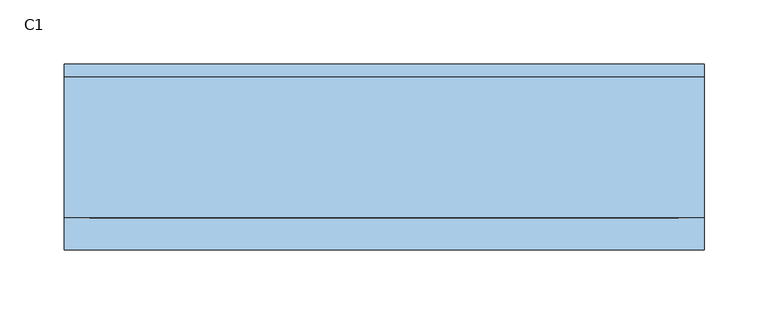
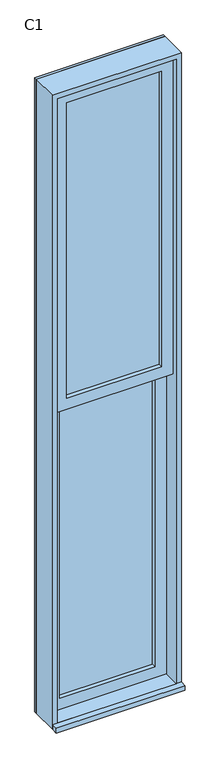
"""IFC4 building model written with IfcOpenShell, lengths in millimetres: window geometry, 上下拉窗1 : C1."""

import ifcopenshell
import ifcopenshell.guid

model = None  # the IFC model being written
_history = None  # IfcOwnerHistory: only IFC2X3 demands one
_inside = {}  # id of a spatial element -> (the spatial element, [elements in it])
_under = {}  # id of a project, library or spatial element -> (it, [spatial elements below it])
_declared = {}  # id of a project -> (the project, [libraries it declares])
_typed = {}  # id of a type object -> (the type object, [elements of that type])
_made_of = {}  # id of a material, layer set ... -> (it, [elements and type objects made of it])


def new_model(schema):
    """Start an empty IFC model of exactly this schema.

    Asked for "IFC4X3", IfcOpenShell would pick the latest addendum, in which some entities
    have other attributes; the version numbers below select the first issue.
    IFC2X3 requires an IfcOwnerHistory on every rooted entity: one is made here for all.
    """
    global model, _history
    if schema == "IFC4X3":
        model = ifcopenshell.file(schema_version=(4, 3, 0, 0))
    else:
        model = ifcopenshell.file(schema=schema)
    _inside.clear()
    _under.clear()
    _declared.clear()
    _typed.clear()
    _made_of.clear()
    _history = None
    if model.schema == "IFC2X3":
        org = make("IfcOrganization", Name="unknown")
        user = make(
            "IfcPersonAndOrganization",
            ThePerson=make("IfcPerson", FamilyName="unknown"),
            TheOrganization=org,
        )
        app = make(
            "IfcApplication",
            ApplicationDeveloper=org,
            Version="unknown",
            ApplicationFullName="unknown",
            ApplicationIdentifier="unknown",
        )
        _history = make(
            "IfcOwnerHistory",
            OwningUser=user,
            OwningApplication=app,
            ChangeAction="ADDED",
            CreationDate=0,
        )
    return model


def make(cls, **values):
    """One entity of the class cls with the attributes given. An attribute that is None is left unset."""
    return model.create_entity(
        cls, **{name: value for name, value in values.items() if value is not None}
    )


def rooted(cls, **values):
    """An entity with a GlobalId (a new one), such as an element, a storey or a relation."""
    return make(cls, GlobalId=ifcopenshell.guid.new(), OwnerHistory=_history, **values)


def si_unit(unit_type, name, prefix=None):
    """IfcSIUnit, for example si_unit("LENGTHUNIT", "METRE", prefix="MILLI")."""
    return make("IfcSIUnit", UnitType=unit_type, Prefix=prefix, Name=name)


def assignment(units):
    """IfcUnitAssignment: the units of a project."""
    return None if units is None else make("IfcUnitAssignment", Units=units)


def point(xyz):
    """IfcCartesianPoint."""
    return None if xyz is None else make("IfcCartesianPoint", Coordinates=xyz)


def direction(xyz):
    """IfcDirection."""
    return None if xyz is None else make("IfcDirection", DirectionRatios=xyz)


def frame(location, z_axis=None, x_axis=None):
    """IfcAxis2Placement3D, a coordinate frame: its origin and axes. An axis left out is left unset."""
    return make(
        "IfcAxis2Placement3D",
        Location=point(location),
        Axis=direction(z_axis),
        RefDirection=direction(x_axis),
    )


def origin():
    """The frame at (0, 0, 0) with its axes left unset."""
    return frame((0.0, 0.0, 0.0))


def place(relative_to, where):
    """IfcLocalPlacement: puts the frame where relative to a parent placement (None: the world)."""
    return make(
        "IfcLocalPlacement", PlacementRelTo=relative_to, RelativePlacement=where
    )


def context(
    kind, dimensions, precision=None, world=None, true_north=None, identifier=None
):
    """IfcGeometricRepresentationContext, for example the 3D "Model" context."""
    return make(
        "IfcGeometricRepresentationContext",
        ContextIdentifier=identifier,
        ContextType=kind,
        CoordinateSpaceDimension=dimensions,
        Precision=precision,
        WorldCoordinateSystem=world,
        TrueNorth=true_north,
    )


def project(units=None, contexts=None):
    """IfcProject with its units and contexts."""
    return rooted(
        "IfcProject",
        Name="project",
        RepresentationContexts=contexts,
        UnitsInContext=assignment(units),
    )


def spatial(cls, under=None, at=None, **own):
    """A site, building, storey or space (cls), placed at a placement, below another one or the project."""
    s = rooted(cls, ObjectPlacement=at, **own)
    if under is not None:
        _under.setdefault(under.id(), (under, []))[1].append(s)
    return s


def polyline(points):
    """IfcPolyline through the points."""
    return make("IfcPolyline", Points=[point(p) for p in points])


def outline(outer, holes=None, kind="AREA"):
    """IfcArbitraryClosedProfileDef: a profile drawn as a closed curve; with holes, ...WithVoids."""
    if holes is None:
        return make("IfcArbitraryClosedProfileDef", ProfileType=kind, OuterCurve=outer)
    return make(
        "IfcArbitraryProfileDefWithVoids",
        ProfileType=kind,
        OuterCurve=outer,
        InnerCurves=holes,
    )


def extrude(swept, where, along, depth):
    """IfcExtrudedAreaSolid: the profile swept, set in the frame where, extruded along a direction by depth."""
    return make(
        "IfcExtrudedAreaSolid",
        SweptArea=swept,
        Position=where,
        ExtrudedDirection=direction(along),
        Depth=depth,
    )


def shape(context_of_items, identifier, shape_type, items):
    """IfcShapeRepresentation: the items that make up one representation, for example the "Body"."""
    return make(
        "IfcShapeRepresentation",
        ContextOfItems=context_of_items,
        RepresentationIdentifier=identifier,
        RepresentationType=shape_type,
        Items=items,
    )


def source(mapping_origin, context_of_items, identifier, shape_type, items):
    """IfcRepresentationMap: a shape defined once, which mapped items show again and again."""
    return make(
        "IfcRepresentationMap",
        MappingOrigin=mapping_origin,
        MappedRepresentation=shape(context_of_items, identifier, shape_type, items),
    )


def transform(
    local_origin,
    x_axis=None,
    y_axis=None,
    z_axis=None,
    scale=None,
    scale2=None,
    scale3=None,
    uniform=True,
):
    """IfcCartesianTransformationOperator3D, or its non-uniform kind. x_axis, y_axis, z_axis: its Axis1, 2, 3."""
    if uniform:
        return make(
            "IfcCartesianTransformationOperator3D",
            Axis1=direction(x_axis),
            Axis2=direction(y_axis),
            LocalOrigin=point(local_origin),
            Scale=scale,
            Axis3=direction(z_axis),
        )
    return make(
        "IfcCartesianTransformationOperator3DnonUniform",
        Axis1=direction(x_axis),
        Axis2=direction(y_axis),
        LocalOrigin=point(local_origin),
        Scale=scale,
        Axis3=direction(z_axis),
        Scale2=scale2,
        Scale3=scale3,
    )


def mapped(mapping_source, mapping_target):
    """IfcMappedItem: shows the shape of a source again, moved by a transform."""
    return make(
        "IfcMappedItem", MappingSource=mapping_source, MappingTarget=mapping_target
    )


def made_of(thing, what):
    """Note that an element or type object is made of a material, layer set ...; save() writes the relation."""
    if what is not None:
        _made_of.setdefault(what.id(), (what, []))[1].append(thing)
    return thing


def element(
    cls,
    number,
    at=None,
    inside=None,
    cuts=None,
    type_object=None,
    material=None,
    context=None,
    identifier="Body",
    shape_type=None,
    held_by="IfcProductDefinitionShape",
    body=None,
    shapes=None,
    **own,
):
    """One element of the class cls, such as IfcWall. Its Tag is "e" and its number.

    at: its placement. inside: the storey or other place that contains it. cuts: it is an
    opening in that element (IfcRelVoidsElement). A single representation is given by context,
    identifier, shape_type and body (its items); several are given by shapes. held_by: the class
    of the entity that holds the representations. save() writes the other relations.
    """
    e = rooted(cls, Tag="e%d" % number, ObjectPlacement=at, **own)
    if body is not None:
        shapes = [shape(context, identifier, shape_type, body)]
    if shapes is not None:
        e.Representation = make(held_by, Representations=shapes)
    if inside is not None:
        _inside.setdefault(inside.id(), (inside, []))[1].append(e)
    if cuts is not None:
        rooted(
            "IfcRelVoidsElement", RelatingBuildingElement=cuts, RelatedOpeningElement=e
        )
    if type_object is not None:
        _typed.setdefault(type_object.id(), (type_object, []))[1].append(e)
    return made_of(e, material)


def aggregate(whole, parts):
    """IfcRelAggregates: a whole, such as a stair, and the parts it consists of."""
    return rooted("IfcRelAggregates", RelatingObject=whole, RelatedObjects=parts)


def save(model, path):
    """Write the relations noted so far, then the file.

    IfcRelAggregates (storeys below a building ...), IfcRelContainedInSpatialStructure (elements
    in a storey), IfcRelDefinesByType, IfcRelAssociatesMaterial and IfcRelDeclares: one each for
    every whole, place, type object, material and project.
    """
    for whole, parts in _under.values():
        aggregate(whole, parts)
    for where, things in _inside.values():
        rooted(
            "IfcRelContainedInSpatialStructure",
            RelatedElements=things,
            RelatingStructure=where,
        )
    for kind, things in _typed.values():
        rooted("IfcRelDefinesByType", RelatedObjects=things, RelatingType=kind)
    for what, things in _made_of.values():
        rooted("IfcRelAssociatesMaterial", RelatedObjects=things, RelatingMaterial=what)
    for by, libraries in _declared.values():
        rooted("IfcRelDeclares", RelatingContext=by, RelatedDefinitions=libraries)
    model.write(path)


def c1_f42e9c25(model_context):
    return source(origin(), model_context, "Body", "SweptSolid", [
        extrude(outline(polyline([(-185.0, -22.2615397), (-185.0, -12.2615397), (185.0, -12.2615397), (185.0, -22.2615397), (-185.0, -22.2615397)])), frame((0.0, 0.0, 2222.5), z_axis=(0.0, 0.0, 1.0), x_axis=(1.0, 0.0, 0.0)), (0.0, 0.0, 1.0), 1212.5),
        extrude(outline(polyline([(-185.0, 22.7384603), (-185.0, 32.7384603), (185.0, 32.7384603), (185.0, 22.7384603), (-185.0, 22.7384603)])), frame((0.0, 0.0, 965.0), z_axis=(0.0, 0.0, 1.0), x_axis=(1.0, 0.0, 0.0)), (0.0, 0.0, 1.0), 1212.5),
        extrude(outline(polyline([(2222.5, -230.0), (920.0, -230.0), (920.0, 230.0), (2222.5, 230.0), (2222.5, -230.0)]), holes=[polyline([(2177.5, -185.0), (2177.5, 185.0), (965.0, 185.0), (965.0, -185.0), (2177.5, -185.0)])]), frame((0.0, 5.2384603, 0.0), z_axis=(0.0, 1.0, 0.0), x_axis=(0.0, 0.0, 1.0)), (0.0, 0.0, 1.0), 45.0),
        extrude(outline(polyline([(3480.0, -230.0), (2177.5, -230.0), (2177.5, 230.0), (3480.0, 230.0), (3480.0, -230.0)]), holes=[polyline([(3435.0, -185.0), (3435.0, 185.0), (2222.5, 185.0), (2222.5, -185.0), (3435.0, -185.0)])]), frame((0.0, -39.7615397, 0.0), z_axis=(0.0, 1.0, 0.0), x_axis=(0.0, 0.0, 1.0)), (0.0, 0.0, 1.0), 45.0),
        extrude(outline(polyline([(3500.0, -250.0), (900.0, -250.0), (900.0, 250.0), (3500.0, 250.0), (3500.0, -250.0)]), holes=[polyline([(3468.0, -218.0), (3468.0, 218.0), (932.0, 218.0), (932.0, -218.0), (3468.0, -218.0)])]), frame((0.0, 50.2384603, 0.0), z_axis=(0.0, 1.0, 0.0), x_axis=(0.0, 0.0, 1.0)), (0.0, 0.0, 1.0), 10.0),
        extrude(outline(polyline([(3500.0, 250.0), (3500.0, -250.0), (900.0, -250.0), (900.0, 250.0), (3500.0, 250.0)]), holes=[polyline([(3480.0, 230.0), (920.0, 230.0), (920.0, -230.0), (3480.0, -230.0), (3480.0, 230.0)])]), frame((0.0, -59.7615397, 0.0), z_axis=(0.0, 1.0, 0.0), x_axis=(0.0, 0.0, 1.0)), (0.0, 0.0, 1.0), 110.0),
        extrude(outline(polyline([(-250.0, -84.7615397), (-250.0, -59.7615397), (250.0, -59.7615397), (250.0, -84.7615397), (-250.0, -84.7615397)])), frame((0.0, 0.0, 900.0), z_axis=(0.0, 0.0, 1.0), x_axis=(1.0, 0.0, 0.0)), (0.0, 0.0, 1.0), 20.0),
    ])


if __name__ == "__main__":
    model = new_model("IFC4")
    model_context = context("Model", 3, world=origin())
    ifc_project = project(units=[si_unit("LENGTHUNIT", "METRE", prefix="MILLI")], contexts=[model_context])
    site = spatial("IfcSite", under=ifc_project)
    building = spatial("IfcBuilding", under=site)
    placement = place(None, origin())
    c1_shape = c1_f42e9c25(model_context)
    element("IfcWindow", 1, ObjectType="上下拉窗1 : C1", at=placement, inside=building, context=model_context, shape_type="MappedRepresentation", body=[
        mapped(c1_shape, transform((0.0, 0.0, 0.0), x_axis=(1.0, 0.0, 0.0), y_axis=(0.0, 1.0, 0.0), z_axis=(0.0, 0.0, 1.0))),
    ])
    save(model, "model.ifc")
